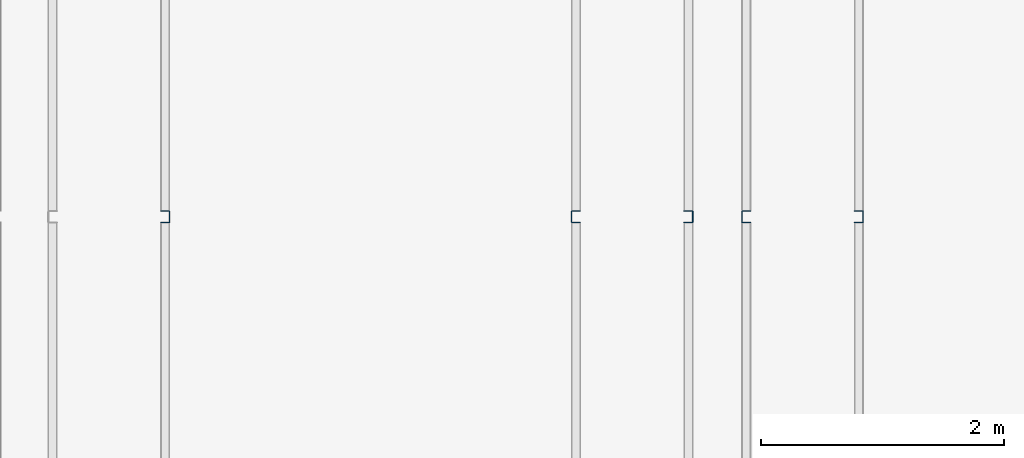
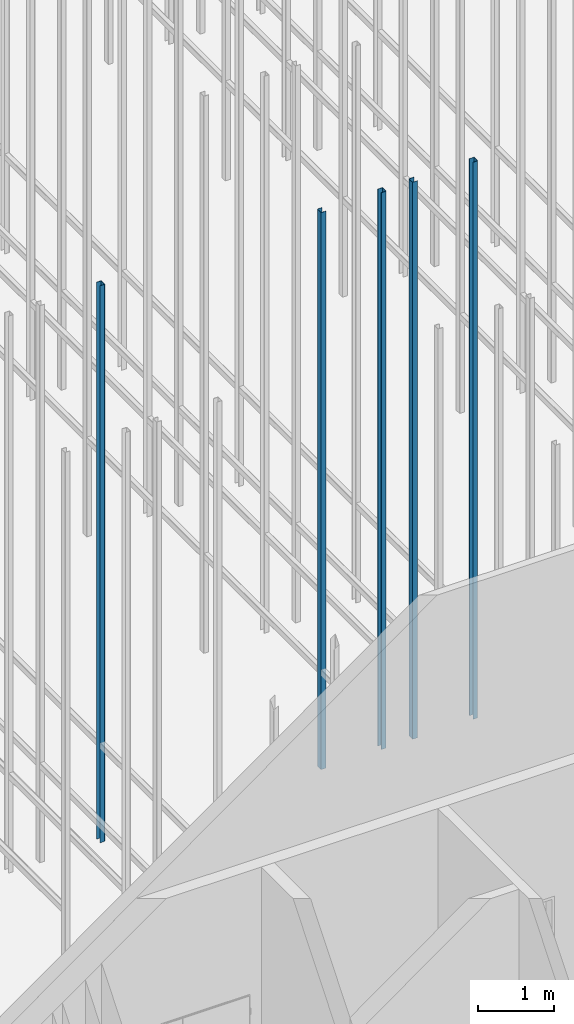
# One storey, part 9 of 302: 5 columns.
"""IFC2X3 building model written with IfcOpenShell, lengths in metres."""

import ifcopenshell
import ifcopenshell.guid

model = None  # the IFC model being written
_history = None  # IfcOwnerHistory: only IFC2X3 demands one
_inside = {}  # id of a spatial element -> (the spatial element, [elements in it])
_under = {}  # id of a project, library or spatial element -> (it, [spatial elements below it])
_declared = {}  # id of a project -> (the project, [libraries it declares])
_typed = {}  # id of a type object -> (the type object, [elements of that type])
_made_of = {}  # id of a material, layer set ... -> (it, [elements and type objects made of it])


def new_model(schema):
    """Start an empty IFC model of exactly this schema.

    Asked for "IFC4X3", IfcOpenShell would pick the latest addendum, in which some entities
    have other attributes; the version numbers below select the first issue.
    IFC2X3 requires an IfcOwnerHistory on every rooted entity: one is made here for all.
    """
    global model, _history
    if schema == "IFC4X3":
        model = ifcopenshell.file(schema_version=(4, 3, 0, 0))
    else:
        model = ifcopenshell.file(schema=schema)
    _inside.clear()
    _under.clear()
    _declared.clear()
    _typed.clear()
    _made_of.clear()
    _history = None
    if model.schema == "IFC2X3":
        org = make("IfcOrganization", Name="unknown")
        user = make(
            "IfcPersonAndOrganization",
            ThePerson=make("IfcPerson", FamilyName="unknown"),
            TheOrganization=org,
        )
        app = make(
            "IfcApplication",
            ApplicationDeveloper=org,
            Version="unknown",
            ApplicationFullName="unknown",
            ApplicationIdentifier="unknown",
        )
        _history = make(
            "IfcOwnerHistory",
            OwningUser=user,
            OwningApplication=app,
            ChangeAction="ADDED",
            CreationDate=0,
        )
    return model


def make(cls, **values):
    """One entity of the class cls with the attributes given. An attribute that is None is left unset."""
    return model.create_entity(
        cls, **{name: value for name, value in values.items() if value is not None}
    )


def entity(cls, *values):
    """Any entity or typed value of the class cls, its attributes in the order of the schema. None: left unset."""
    e = model.create_entity(cls)
    for i, value in enumerate(values):
        if value is not None:
            e[i] = value
    return e


def rooted(cls, **values):
    """An entity with a GlobalId (a new one), such as an element, a storey or a relation."""
    return make(cls, GlobalId=ifcopenshell.guid.new(), OwnerHistory=_history, **values)


def si_unit(unit_type, name, prefix=None):
    """IfcSIUnit, for example si_unit("LENGTHUNIT", "METRE", prefix="MILLI")."""
    return make("IfcSIUnit", UnitType=unit_type, Prefix=prefix, Name=name)


def converted_unit(unit_type, name, factor, base, dimensions=None, offset=None):
    """IfcConversionBasedUnit, such as the inch: factor (a typed value) times the base unit."""
    return make(
        "IfcConversionBasedUnit"
        if offset is None
        else "IfcConversionBasedUnitWithOffset",
        ConversionOffset=offset,
        Dimensions=None
        if dimensions is None
        else entity("IfcDimensionalExponents", *dimensions),
        UnitType=unit_type,
        Name=name,
        ConversionFactor=make(
            "IfcMeasureWithUnit", ValueComponent=factor, UnitComponent=base
        ),
    )


def derived_unit(unit_type, elements):
    """IfcDerivedUnit: a product of units, each with its exponent."""
    return make(
        "IfcDerivedUnit",
        Elements=[
            make("IfcDerivedUnitElement", Unit=unit, Exponent=power)
            for unit, power in elements
        ],
        UnitType=unit_type,
    )


def assignment(units):
    """IfcUnitAssignment: the units of a project."""
    return None if units is None else make("IfcUnitAssignment", Units=units)


def point(xyz):
    """IfcCartesianPoint."""
    return None if xyz is None else make("IfcCartesianPoint", Coordinates=xyz)


def direction(xyz):
    """IfcDirection."""
    return None if xyz is None else make("IfcDirection", DirectionRatios=xyz)


def frame(location, z_axis=None, x_axis=None):
    """IfcAxis2Placement3D, a coordinate frame: its origin and axes. An axis left out is left unset."""
    return make(
        "IfcAxis2Placement3D",
        Location=point(location),
        Axis=direction(z_axis),
        RefDirection=direction(x_axis),
    )


def frame_2d(location, x_axis=None):
    """IfcAxis2Placement2D, a coordinate frame in the plane: its origin and x axis."""
    return make(
        "IfcAxis2Placement2D", Location=point(location), RefDirection=direction(x_axis)
    )


def origin():
    """The frame at (0, 0, 0) with its axes left unset."""
    return frame((0.0, 0.0, 0.0))


def place(relative_to, where):
    """IfcLocalPlacement: puts the frame where relative to a parent placement (None: the world)."""
    return make(
        "IfcLocalPlacement", PlacementRelTo=relative_to, RelativePlacement=where
    )


def context(
    kind, dimensions, precision=None, world=None, true_north=None, identifier=None
):
    """IfcGeometricRepresentationContext, for example the 3D "Model" context."""
    return make(
        "IfcGeometricRepresentationContext",
        ContextIdentifier=identifier,
        ContextType=kind,
        CoordinateSpaceDimension=dimensions,
        Precision=precision,
        WorldCoordinateSystem=world,
        TrueNorth=true_north,
    )


def subcontext(parent, identifier, kind, view, scale=None):
    """IfcGeometricRepresentationSubContext, for example "Body" below "Model"."""
    return make(
        "IfcGeometricRepresentationSubContext",
        ContextIdentifier=identifier,
        ContextType=kind,
        ParentContext=parent,
        TargetScale=scale,
        TargetView=view,
    )


def project(units=None, contexts=None):
    """IfcProject with its units and contexts."""
    return rooted(
        "IfcProject",
        Name="project",
        RepresentationContexts=contexts,
        UnitsInContext=assignment(units),
    )


def spatial(cls, under=None, at=None, **own):
    """A site, building, storey or space (cls), placed at a placement, below another one or the project."""
    s = rooted(cls, ObjectPlacement=at, **own)
    if under is not None:
        _under.setdefault(under.id(), (under, []))[1].append(s)
    return s


def polyline(points):
    """IfcPolyline through the points."""
    return make("IfcPolyline", Points=[point(p) for p in points])


def circle_curve(where, radius):
    """IfcCircle in the frame where."""
    return make("IfcCircle", Position=where, Radius=radius)


def parameter(value):
    """IfcParameterValue: where a trimmed curve begins or ends, as a parameter of its basis curve."""
    return model.create_entity("IfcParameterValue", value)


def trimmed(basis, trim1, trim2, sense, master):
    """IfcTrimmedCurve: the piece of a basis curve between two trims."""
    return make(
        "IfcTrimmedCurve",
        BasisCurve=basis,
        Trim1=trim1,
        Trim2=trim2,
        SenseAgreement=sense,
        MasterRepresentation=master,
    )


def segment(curve, same_sense, transition):
    """IfcCompositeCurveSegment."""
    return make(
        "IfcCompositeCurveSegment",
        Transition=transition,
        SameSense=same_sense,
        ParentCurve=curve,
    )


def composite_curve(segments, self_intersect=None):
    """IfcCompositeCurve: segments joined end to end."""
    return make("IfcCompositeCurve", Segments=segments, SelfIntersect=self_intersect)


def outline(outer, holes=None, kind="AREA"):
    """IfcArbitraryClosedProfileDef: a profile drawn as a closed curve; with holes, ...WithVoids."""
    if holes is None:
        return make("IfcArbitraryClosedProfileDef", ProfileType=kind, OuterCurve=outer)
    return make(
        "IfcArbitraryProfileDefWithVoids",
        ProfileType=kind,
        OuterCurve=outer,
        InnerCurves=holes,
    )


def extrude(swept, where, along, depth):
    """IfcExtrudedAreaSolid: the profile swept, set in the frame where, extruded along a direction by depth."""
    return make(
        "IfcExtrudedAreaSolid",
        SweptArea=swept,
        Position=where,
        ExtrudedDirection=direction(along),
        Depth=depth,
    )


def shape(context_of_items, identifier, shape_type, items):
    """IfcShapeRepresentation: the items that make up one representation, for example the "Body"."""
    return make(
        "IfcShapeRepresentation",
        ContextOfItems=context_of_items,
        RepresentationIdentifier=identifier,
        RepresentationType=shape_type,
        Items=items,
    )


def source(mapping_origin, context_of_items, identifier, shape_type, items):
    """IfcRepresentationMap: a shape defined once, which mapped items show again and again."""
    return make(
        "IfcRepresentationMap",
        MappingOrigin=mapping_origin,
        MappedRepresentation=shape(context_of_items, identifier, shape_type, items),
    )


def transform(
    local_origin,
    x_axis=None,
    y_axis=None,
    z_axis=None,
    scale=None,
    scale2=None,
    scale3=None,
    uniform=True,
):
    """IfcCartesianTransformationOperator3D, or its non-uniform kind. x_axis, y_axis, z_axis: its Axis1, 2, 3."""
    if uniform:
        return make(
            "IfcCartesianTransformationOperator3D",
            Axis1=direction(x_axis),
            Axis2=direction(y_axis),
            LocalOrigin=point(local_origin),
            Scale=scale,
            Axis3=direction(z_axis),
        )
    return make(
        "IfcCartesianTransformationOperator3DnonUniform",
        Axis1=direction(x_axis),
        Axis2=direction(y_axis),
        LocalOrigin=point(local_origin),
        Scale=scale,
        Axis3=direction(z_axis),
        Scale2=scale2,
        Scale3=scale3,
    )


def mapped(mapping_source, mapping_target):
    """IfcMappedItem: shows the shape of a source again, moved by a transform."""
    return make(
        "IfcMappedItem", MappingSource=mapping_source, MappingTarget=mapping_target
    )


def material(Name=None, Category=None):
    """IfcMaterial."""
    return make("IfcMaterial", Name=Name, Category=Category)


def made_of(thing, what):
    """Note that an element or type object is made of a material, layer set ...; save() writes the relation."""
    if what is not None:
        _made_of.setdefault(what.id(), (what, []))[1].append(thing)
    return thing


def type_object(cls, material=None, **own):
    """A type object (cls), such as IfcWallType, which elements share."""
    return made_of(rooted(cls, **own), material)


def type_shapes(of_type, sources):
    """Give a type object the sources (RepresentationMaps) that its elements show as mapped items."""
    of_type.RepresentationMaps = sources


def element(
    cls,
    number,
    at=None,
    inside=None,
    cuts=None,
    type_object=None,
    material=None,
    context=None,
    identifier="Body",
    shape_type=None,
    held_by="IfcProductDefinitionShape",
    body=None,
    shapes=None,
    **own,
):
    """One element of the class cls, such as IfcWall. Its Tag is "e" and its number.

    at: its placement. inside: the storey or other place that contains it. cuts: it is an
    opening in that element (IfcRelVoidsElement). A single representation is given by context,
    identifier, shape_type and body (its items); several are given by shapes. held_by: the class
    of the entity that holds the representations. save() writes the other relations.
    """
    e = rooted(cls, Tag="e%d" % number, ObjectPlacement=at, **own)
    if body is not None:
        shapes = [shape(context, identifier, shape_type, body)]
    if shapes is not None:
        e.Representation = make(held_by, Representations=shapes)
    if inside is not None:
        _inside.setdefault(inside.id(), (inside, []))[1].append(e)
    if cuts is not None:
        rooted(
            "IfcRelVoidsElement", RelatingBuildingElement=cuts, RelatedOpeningElement=e
        )
    if type_object is not None:
        _typed.setdefault(type_object.id(), (type_object, []))[1].append(e)
    return made_of(e, material)


def aggregate(whole, parts):
    """IfcRelAggregates: a whole, such as a stair, and the parts it consists of."""
    return rooted("IfcRelAggregates", RelatingObject=whole, RelatedObjects=parts)


def save(model, path):
    """Write the relations noted so far, then the file.

    IfcRelAggregates (storeys below a building ...), IfcRelContainedInSpatialStructure (elements
    in a storey), IfcRelDefinesByType, IfcRelAssociatesMaterial and IfcRelDeclares: one each for
    every whole, place, type object, material and project.
    """
    for whole, parts in _under.values():
        aggregate(whole, parts)
    for where, things in _inside.values():
        rooted(
            "IfcRelContainedInSpatialStructure",
            RelatedElements=things,
            RelatingStructure=where,
        )
    for kind, things in _typed.values():
        rooted("IfcRelDefinesByType", RelatedObjects=things, RelatingType=kind)
    for what, things in _made_of.values():
        rooted("IfcRelAssociatesMaterial", RelatedObjects=things, RelatingMaterial=what)
    for by, libraries in _declared.values():
        rooted("IfcRelDeclares", RelatingContext=by, RelatedDefinitions=libraries)
    model.write(path)


model = new_model("IFC2X3")

# Units and contexts
model_context = context("Model", 3, precision=1e-05, world=origin(), true_north=direction((6.12303176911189e-17, 1.0)))
body_context = subcontext(model_context, "Body", "Model", "MODEL_VIEW")
ifc_project = project(units=[si_unit("LENGTHUNIT", "METRE"), si_unit("AREAUNIT", "SQUARE_METRE"), si_unit("VOLUMEUNIT", "CUBIC_METRE"), converted_unit("PLANEANGLEUNIT", "DEGREE", entity("IfcRatioMeasure", 0.0174532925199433), si_unit("PLANEANGLEUNIT", "RADIAN"), dimensions=[0, 0, 0, 0, 0, 0, 0]), si_unit("MASSUNIT", "GRAM", prefix="KILO"), derived_unit("MASSDENSITYUNIT", [(si_unit("MASSUNIT", "GRAM", prefix="KILO"), 1), (si_unit("LENGTHUNIT", "METRE"), -3)]), derived_unit("MOMENTOFINERTIAUNIT", [(si_unit("LENGTHUNIT", "METRE"), 4)]), si_unit("TIMEUNIT", "SECOND"), si_unit("FREQUENCYUNIT", "HERTZ"), si_unit("THERMODYNAMICTEMPERATUREUNIT", "DEGREE_CELSIUS"), derived_unit("THERMALTRANSMITTANCEUNIT", [(si_unit("MASSUNIT", "GRAM", prefix="KILO"), 1), (si_unit("THERMODYNAMICTEMPERATUREUNIT", "KELVIN"), -1), (si_unit("TIMEUNIT", "SECOND"), -3)]), derived_unit("VOLUMETRICFLOWRATEUNIT", [(si_unit("LENGTHUNIT", "METRE"), 3), (si_unit("TIMEUNIT", "SECOND"), -1)]), si_unit("ELECTRICCURRENTUNIT", "AMPERE"), si_unit("ELECTRICVOLTAGEUNIT", "VOLT"), si_unit("POWERUNIT", "WATT"), si_unit("FORCEUNIT", "NEWTON", prefix="KILO"), si_unit("ILLUMINANCEUNIT", "LUX"), si_unit("LUMINOUSFLUXUNIT", "LUMEN"), si_unit("LUMINOUSINTENSITYUNIT", "CANDELA"), derived_unit("USERDEFINED", [(si_unit("MASSUNIT", "GRAM", prefix="KILO"), -1), (si_unit("LENGTHUNIT", "METRE"), -2), (si_unit("TIMEUNIT", "SECOND"), 3), (si_unit("LUMINOUSFLUXUNIT", "LUMEN"), 1)]), derived_unit("LINEARVELOCITYUNIT", [(si_unit("LENGTHUNIT", "METRE"), 1), (si_unit("TIMEUNIT", "SECOND"), -1)]), si_unit("PRESSUREUNIT", "PASCAL"), derived_unit("USERDEFINED", [(si_unit("LENGTHUNIT", "METRE"), -2), (si_unit("MASSUNIT", "GRAM", prefix="KILO"), 1), (si_unit("TIMEUNIT", "SECOND"), -2)]), derived_unit("LINEARFORCEUNIT", [(si_unit("MASSUNIT", "GRAM", prefix="KILO"), 1), (si_unit("LENGTHUNIT", "METRE"), 1), (si_unit("TIMEUNIT", "SECOND"), -2), (si_unit("LENGTHUNIT", "METRE"), -1)]), derived_unit("PLANARFORCEUNIT", [(si_unit("MASSUNIT", "GRAM", prefix="KILO"), 1), (si_unit("LENGTHUNIT", "METRE"), 1), (si_unit("TIMEUNIT", "SECOND"), -2), (si_unit("LENGTHUNIT", "METRE"), -2)])], contexts=[model_context])

# Site, building, storey
site_placement = place(None, origin())
site = spatial("IfcSite", under=ifc_project, at=site_placement, Name="Default", CompositionType="ELEMENT")
building_placement = place(site_placement, origin())
building = spatial("IfcBuilding", under=site, at=building_placement, CompositionType="ELEMENT")
storey_placement = place(building_placement, frame((0.0, 0.0, -1.3)))
storey = spatial("IfcBuildingStorey", under=building, at=storey_placement, Name="00_EG", CompositionType="ELEMENT", Elevation=-1.3)

# Columns
ifc_material = material(Name="Metall - Baustahl S235")
column_type_1 = type_object("IfcColumnType", Name="Leichter Stahl Schlossschrauben Stütze:C 100", PredefinedType="COLUMN", material=ifc_material)
shared_shape_1 = source(origin(), body_context, "Body", "SweptSolid", [
    extrude(outline(composite_curve([segment(polyline([(-0.0469749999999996, -0.0499999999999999), (0.0214500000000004, -0.0499999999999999)]), True, "CONTINUOUS"), segment(trimmed(circle_curve(frame_2d((0.0214500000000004, -0.0434249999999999), x_axis=(0.0, -1.0)), 0.00657500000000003), [parameter(0.0)], [parameter(89.9999999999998)], True, "PARAMETER"), True, "CONTINUOUS"), segment(polyline([(0.0280250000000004, -0.0434249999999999), (0.0280250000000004, 0.0434250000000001)]), True, "CONTINUOUS"), segment(trimmed(circle_curve(frame_2d((0.0214500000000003, 0.0434250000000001), x_axis=(1.0, 0.0)), 0.0065750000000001), [parameter(0.0)], [parameter(89.9999999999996)], True, "PARAMETER"), True, "CONTINUOUS"), segment(polyline([(0.0214500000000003, 0.0500000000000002), (-0.0469750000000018, 0.0500000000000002)]), True, "CONTINUOUS"), segment(polyline([(-0.0469750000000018, 0.0500000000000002), (-0.0469750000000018, 0.0450000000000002)]), True, "CONTINUOUS"), segment(polyline([(-0.0469750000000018, 0.0450000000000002), (0.0214500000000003, 0.0450000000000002)]), True, "CONTINUOUS"), segment(trimmed(circle_curve(frame_2d((0.0214500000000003, 0.0434249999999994), x_axis=(0.0, 1.0)), 0.00157500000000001), [parameter(269.999999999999)], [parameter(0.0)], True, "PARAMETER"), False, "CONTINUOUS"), segment(polyline([(0.0230250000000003, 0.0434249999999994), (0.0230250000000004, -0.0434249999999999)]), True, "CONTINUOUS"), segment(trimmed(circle_curve(frame_2d((0.0214500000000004, -0.0434249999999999), x_axis=(1.0, 0.0)), 0.00157500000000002), [parameter(270.0)], [parameter(0.0)], True, "PARAMETER"), False, "CONTINUOUS"), segment(polyline([(0.0214500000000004, -0.0449999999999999), (-0.0469749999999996, -0.0449999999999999)]), True, "CONTINUOUS"), segment(polyline([(-0.0469749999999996, -0.0449999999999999), (-0.0469749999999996, -0.0499999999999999)]), True, "CONTINUOUS")], self_intersect=False)), frame((0.0499999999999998, 0.0280250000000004, -0.0300000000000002), z_axis=(0.0, 0.0, 1.0), x_axis=(0.0, -1.0, 0.0)), (0.0, 0.0, 1.0), 9.0),
])
type_shapes(column_type_1, [shared_shape_1])
for number, where, z_axis, x_axis in (
    (1, (-196.490111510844, 30.248088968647, 1.3), (0.0, 0.0, 1.0), (0.0, -1.0, 0.0)),
    (2, (-195.090111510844, 30.248088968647, 1.3), (0.0, 0.0, 1.0), (0.0, -1.0, 0.0)),
):
    element("IfcColumn", number, at=place(storey_placement, frame(where, z_axis=z_axis, x_axis=x_axis)), inside=storey, type_object=column_type_1, material=ifc_material, Name="Leichter Stahl Schlossschrauben Stütze:C 100", ObjectType="Leichter Stahl Schlossschrauben Stütze:C 100", context=body_context, shape_type="MappedRepresentation", body=[
        mapped(shared_shape_1, transform((0.0, 0.0, 0.0), scale=1.0)),
    ])
column_type_2 = type_object("IfcColumnType", Name="Leichter Stahl Schlossschrauben Stütze:C 100", PredefinedType="COLUMN", material=ifc_material)
shared_shape_2 = source(origin(), body_context, "Body", "SweptSolid", [
    extrude(outline(composite_curve([segment(polyline([(-0.0214500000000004, -0.0499999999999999), (0.0469749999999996, -0.0499999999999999)]), True, "CONTINUOUS"), segment(polyline([(0.0469749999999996, -0.0499999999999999), (0.0469749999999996, -0.0449999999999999)]), True, "CONTINUOUS"), segment(polyline([(0.0469749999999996, -0.0449999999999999), (-0.0214500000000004, -0.045)]), True, "CONTINUOUS"), segment(trimmed(circle_curve(frame_2d((-0.0214500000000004, -0.043425), x_axis=(0.0, -1.0)), 0.00157500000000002), [parameter(270.0)], [parameter(0.0)], True, "PARAMETER"), False, "CONTINUOUS"), segment(polyline([(-0.0230250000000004, -0.0434249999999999), (-0.0230250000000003, 0.0434249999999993)]), True, "CONTINUOUS"), segment(trimmed(circle_curve(frame_2d((-0.0214500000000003, 0.0434249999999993), x_axis=(-1.0, 0.0)), 0.00157500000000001), [parameter(269.999999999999)], [parameter(0.0)], True, "PARAMETER"), False, "CONTINUOUS"), segment(polyline([(-0.0214500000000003, 0.0450000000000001), (0.0469750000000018, 0.0450000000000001)]), True, "CONTINUOUS"), segment(polyline([(0.0469750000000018, 0.0450000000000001), (0.0469750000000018, 0.0500000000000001)]), True, "CONTINUOUS"), segment(polyline([(0.0469750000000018, 0.0500000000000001), (-0.0214500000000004, 0.0500000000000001)]), True, "CONTINUOUS"), segment(trimmed(circle_curve(frame_2d((-0.0214500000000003, 0.043425), x_axis=(0.0, 1.0)), 0.0065750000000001), [parameter(0.0)], [parameter(89.9999999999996)], True, "PARAMETER"), True, "CONTINUOUS"), segment(polyline([(-0.0280250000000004, 0.043425), (-0.0280250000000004, -0.043425)]), True, "CONTINUOUS"), segment(trimmed(circle_curve(frame_2d((-0.0214500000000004, -0.0434249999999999), x_axis=(-1.0, 0.0)), 0.00657500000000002), [parameter(0.0)], [parameter(89.9999999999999)], True, "PARAMETER"), True, "CONTINUOUS")], self_intersect=False)), frame((0.0499999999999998, -0.0280250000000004, -0.0300000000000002), z_axis=(0.0, 0.0, 1.0), x_axis=(0.0, -1.0, 0.0)), (0.0, 0.0, 1.0), 9.0),
])
type_shapes(column_type_2, [shared_shape_2])
for number, where, z_axis, x_axis in (
    (3, (-195.490111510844, 30.248088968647, 1.3), (0.0, 0.0, 1.0), (0.0, -1.0, 0.0)),
    (4, (-199.790111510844, 30.248088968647, 1.3), (0.0, 0.0, 1.0), (0.0, -1.0, 0.0)),
    (5, (-194.090111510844, 30.248088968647, 1.3), (0.0, 0.0, 1.0), (0.0, -1.0, 0.0)),
):
    element("IfcColumn", number, at=place(storey_placement, frame(where, z_axis=z_axis, x_axis=x_axis)), inside=storey, type_object=column_type_2, material=ifc_material, Name="Leichter Stahl Schlossschrauben Stütze:C 100", ObjectType="Leichter Stahl Schlossschrauben Stütze:C 100", context=body_context, shape_type="MappedRepresentation", body=[
        mapped(shared_shape_2, transform((0.0, 0.0, 0.0), scale=1.0)),
    ])

save(model, "model.ifc")
